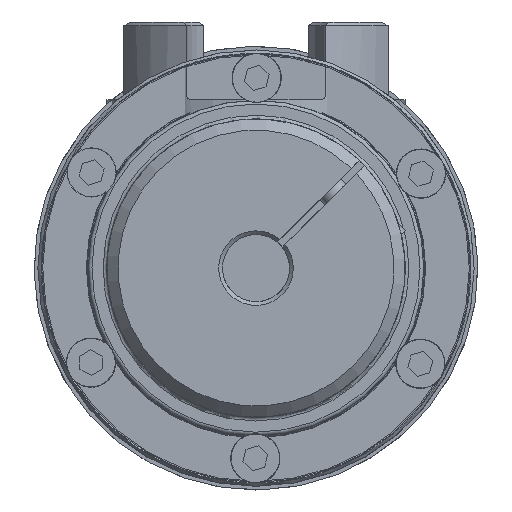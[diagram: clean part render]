
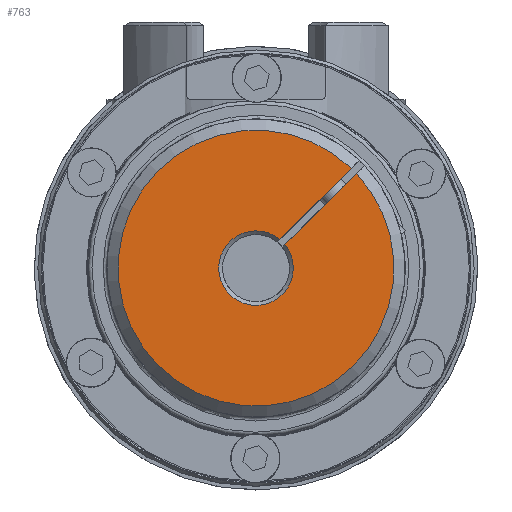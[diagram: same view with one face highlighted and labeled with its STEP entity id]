
A CAD part, left-side view. The second image highlights one B-rep face of the part: STEP entity #763.
In plain terms, the highlighted planar face has unit normal (-1, 0, 0) as drawn and (0, 0, -1) by its records, which use the part's own axes.
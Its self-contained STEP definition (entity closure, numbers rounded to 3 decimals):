
#763 = ADVANCED_FACE( '', ( #1576 ), #1577, .T. );
#1576 = FACE_OUTER_BOUND( '', #2507, .T. );
#1577 = PLANE( '', #2508 );
#2507 = EDGE_LOOP( '', ( #4623, #4624, #4625, #4626 ) );
#2508 = AXIS2_PLACEMENT_3D( '', #4627, #4628, #4629 );
#4623 = ORIENTED_EDGE( '', *, *, #5859, .F. );
#4624 = ORIENTED_EDGE( '', *, *, #5873, .T. );
#4625 = ORIENTED_EDGE( '', *, *, #5874, .T. );
#4626 = ORIENTED_EDGE( '', *, *, #5875, .T. );
#4627 = CARTESIAN_POINT( '', ( 0., 0., 0. ) );
#4628 = DIRECTION( '', ( 0., 0., -1. ) );
#4629 = DIRECTION( '', ( 0., -1., 0. ) );
#5859 = EDGE_CURVE( '', #6962, #6964, #6965, .F. );
#5873 = EDGE_CURVE( '', #6962, #6987, #6989, .T. );
#5874 = EDGE_CURVE( '', #6987, #6990, #6991, .T. );
#5875 = EDGE_CURVE( '', #6990, #6964, #6992, .F. );
#6962 = VERTEX_POINT( '', #9080 );
#6964 = VERTEX_POINT( '', #9085 );
#6965 = LINE( '', #9086, #9087 );
#6987 = VERTEX_POINT( '', #9131 );
#6989 = CIRCLE( '', #9136, 37. );
#6990 = VERTEX_POINT( '', #9137 );
#6991 = LINE( '', #9138, #9139 );
#6992 = CIRCLE( '', #9140, 10. );
#9080 = CARTESIAN_POINT( '', ( -36.986, 1., 0. ) );
#9085 = CARTESIAN_POINT( '', ( -9.95, 1., 0. ) );
#9086 = CARTESIAN_POINT( '', ( -40., 1., 0. ) );
#9087 = VECTOR( '', #10852, 1000. );
#9131 = CARTESIAN_POINT( '', ( -36.986, -1., 0. ) );
#9136 = AXIS2_PLACEMENT_3D( '', #10869, #10870, #10871 );
#9137 = CARTESIAN_POINT( '', ( -9.95, -1., 0. ) );
#9138 = CARTESIAN_POINT( '', ( 0., -1., 0. ) );
#9139 = VECTOR( '', #10872, 1000. );
#9140 = AXIS2_PLACEMENT_3D( '', #10873, #10874, #10875 );
#10852 = DIRECTION( '', ( -1., 0., 0. ) );
#10869 = CARTESIAN_POINT( '', ( 0., 0., 0. ) );
#10870 = DIRECTION( '', ( 0., 0., -1. ) );
#10871 = DIRECTION( '', ( -1., 0., 0. ) );
#10872 = DIRECTION( '', ( 1., 0., 0. ) );
#10873 = CARTESIAN_POINT( '', ( 0., 0., 0. ) );
#10874 = DIRECTION( '', ( 0., 0., -1. ) );
#10875 = DIRECTION( '', ( -1., 0., 0. ) );
